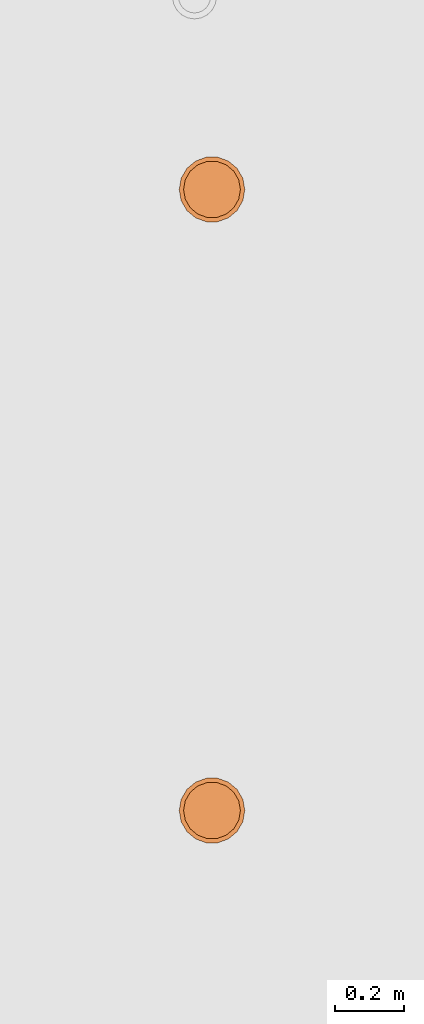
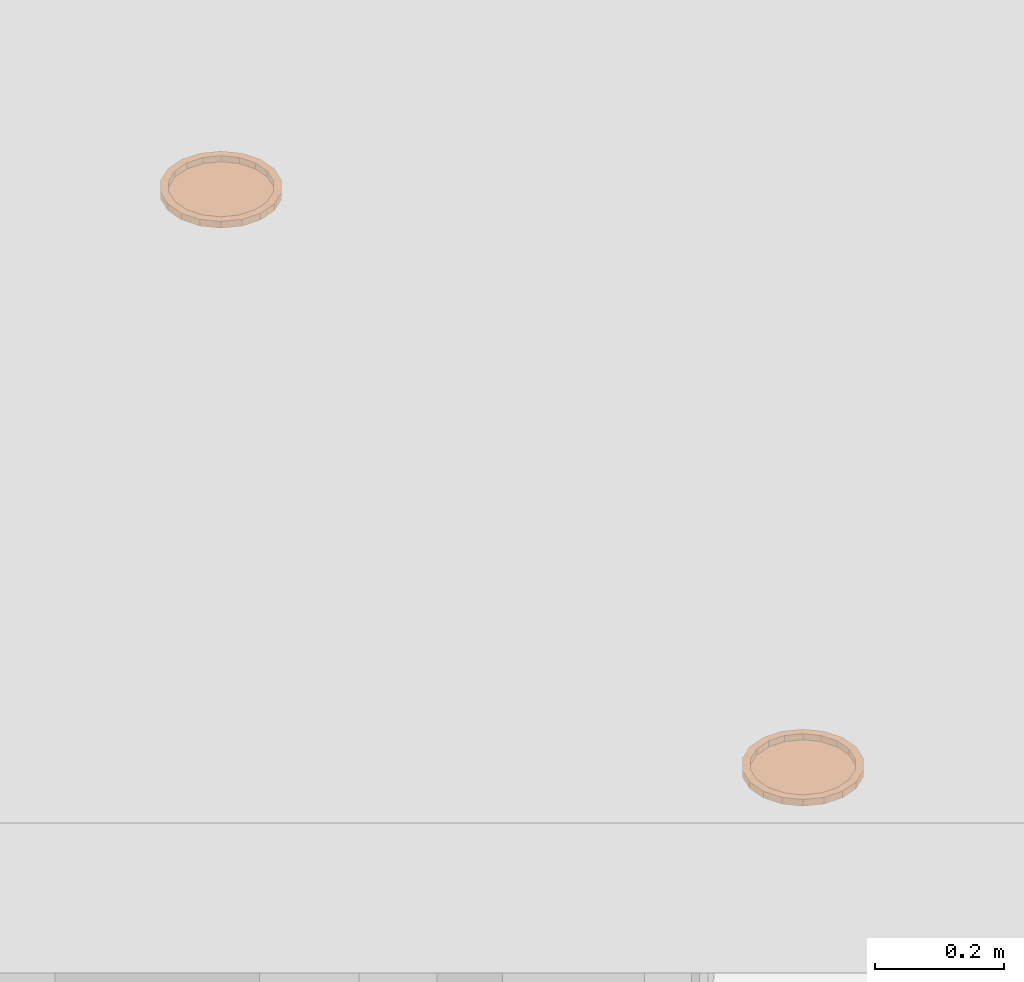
# One storey, part 70 of 103: 2 proxies.
"""IFC2X3 building model written with IfcOpenShell, lengths in inches."""

from ifc_helpers import new_model, entity, si_unit, converted_unit, derived_unit, money_unit, direction, frame, origin_with_axes, place, context, subcontext, project, spatial, open_shell, faceted_brep, surface_model, source, transform, mapped, type_object, element, save


model = new_model("IFC2X3")

# Units and contexts
model_context = context("Model", 3, precision=0.00039370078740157, world=origin_with_axes(), true_north=direction((0.0, 1.0)))
plan_context = context("Plan", 3, precision=0.00039370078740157, world=origin_with_axes(), true_north=direction((0.0, 1.0)))
body_context = subcontext(model_context, "Body", "Model", "MODEL_VIEW")
ifc_project = project(units=[converted_unit("LENGTHUNIT", "INCH", entity("IfcPositiveLengthMeasure", 0.0254), si_unit("LENGTHUNIT", "METRE"), dimensions=[1, 0, 0, 0, 0, 0, 0]), converted_unit("AREAUNIT", "SQUARE_FOOT", entity("IfcPositiveLengthMeasure", 0.09290304), si_unit("AREAUNIT", "SQUARE_METRE"), dimensions=[2, 0, 0, 0, 0, 0, 0]), si_unit("PLANEANGLEUNIT", "RADIAN"), si_unit("SOLIDANGLEUNIT", "STERADIAN"), money_unit("USD"), converted_unit("TIMEUNIT", "Year", entity("IfcTimeMeasure", 31557600.0), si_unit("TIMEUNIT", "SECOND"), dimensions=[0, 0, 1, 0, 0, 0, 0]), si_unit("MASSUNIT", "GRAM", prefix="KILO"), si_unit("THERMODYNAMICTEMPERATUREUNIT", "DEGREE_CELSIUS"), si_unit("LUMINOUSINTENSITYUNIT", "LUMEN"), si_unit("ENERGYUNIT", "JOULE", prefix="MEGA"), derived_unit("SPECIFICHEATCAPACITYUNIT", [(si_unit("ENERGYUNIT", "JOULE"), 1), (si_unit("MASSUNIT", "GRAM", prefix="KILO"), -1), (si_unit("THERMODYNAMICTEMPERATUREUNIT", "KELVIN"), -1)])], contexts=[model_context, plan_context])

# Site, building, storey
site_placement = place(None, origin_with_axes())
site = spatial("IfcSite", under=ifc_project, at=site_placement, Name="Site", CompositionType="ELEMENT")
building_placement = place(site_placement, origin_with_axes())
building = spatial("IfcBuilding", under=site, at=building_placement, Name="Building", CompositionType="ELEMENT")
storey_placement = place(building_placement, frame((0.0, 0.0, 127.9999999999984), z_axis=(0.0, 0.0, 1.0), x_axis=(1.0, 0.0, 0.0)))
storey = spatial("IfcBuildingStorey", under=building, at=storey_placement, Name="Second Floor", CompositionType="ELEMENT", Elevation=128.0)

# Proxies
building_element_proxy_type = type_object("IfcBuildingElementProxyType", Name="Recessed Spot", PredefinedType="NOTDEFINED")
shared_shape = source(origin_with_axes(), body_context, "Body", "SurfaceModel", [
    faceted_brep([(3.749999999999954, 0.0, -0.4999999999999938), (3.523847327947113, 1.282575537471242, -0.4999999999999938), (3.523847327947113, 1.282575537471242, 0.0), (3.749999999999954, 0.0, 0.0), (3.523847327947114, -1.282575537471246, -0.4999999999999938), (2.872666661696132, -2.410453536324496, -0.4999999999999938), (1.874999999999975, -3.247595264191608, -0.4999999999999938), (0.6511806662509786, -3.693029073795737, -0.4999999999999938), (-0.6511806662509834, -3.693029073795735, -0.4999999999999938), (-1.87499999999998, -3.247595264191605, -0.4999999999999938), (-2.872666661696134, -2.410453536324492, -0.4999999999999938), (-3.523847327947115, -1.282575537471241, -0.4999999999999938), (-3.749999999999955, 0.0, -0.4999999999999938), (-3.523847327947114, 1.282575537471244, -0.4999999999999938), (-2.872666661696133, 2.410453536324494, -0.4999999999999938), (-1.874999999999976, 3.247595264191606, -0.4999999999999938), (-0.6511806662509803, 3.693029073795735, -0.4999999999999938), (0.6511806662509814, 3.693029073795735, -0.4999999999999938), (1.874999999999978, 3.247595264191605, -0.4999999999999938), (2.872666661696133, 2.410453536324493, -0.4999999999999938), (3.24999999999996, 0.0, -0.4999999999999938), (3.054001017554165, 1.11156546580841, -0.4999999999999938), (2.489644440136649, 2.089059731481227, -0.4999999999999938), (1.62499999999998, 2.814582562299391, -0.4999999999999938), (0.5643565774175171, 3.200625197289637, -0.4999999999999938), (-0.5643565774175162, 3.200625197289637, -0.4999999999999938), (-1.62499999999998, 2.814582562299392, -0.4999999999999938), (-2.489644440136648, 2.089059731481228, -0.4999999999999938), (-3.054001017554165, 1.111565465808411, -0.4999999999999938), (-3.24999999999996, 0.0, -0.4999999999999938), (-3.054001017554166, -1.111565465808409, -0.4999999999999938), (-2.48964444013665, -2.089059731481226, -0.4999999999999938), (-1.624999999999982, -2.814582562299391, -0.4999999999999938), (-0.5643565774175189, -3.200625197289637, -0.4999999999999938), (0.5643565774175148, -3.200625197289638, -0.4999999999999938), (1.624999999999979, -2.814582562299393, -0.4999999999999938), (2.489644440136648, -2.08905973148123, -0.4999999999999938), (3.054001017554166, -1.111565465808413, -0.4999999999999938), (2.872666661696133, 2.410453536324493, 0.0), (1.874999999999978, 3.247595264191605, 0.0), (0.6511806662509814, 3.693029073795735, 0.0), (-0.6511806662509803, 3.693029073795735, 0.0), (-1.874999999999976, 3.247595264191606, 0.0), (-2.872666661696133, 2.410453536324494, 0.0), (-3.523847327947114, 1.282575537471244, 0.0), (-3.749999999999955, 0.0, 0.0), (-3.523847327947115, -1.282575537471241, 0.0), (-2.872666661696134, -2.410453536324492, 0.0), (-1.87499999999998, -3.247595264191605, 0.0), (-0.6511806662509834, -3.693029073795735, 0.0), (0.6511806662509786, -3.693029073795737, 0.0), (1.874999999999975, -3.247595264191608, 0.0), (2.872666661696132, -2.410453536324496, 0.0), (3.523847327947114, -1.282575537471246, 0.0), (3.24999999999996, 0.0, 0.0), (3.054001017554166, -1.111565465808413, 0.0), (2.489644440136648, -2.08905973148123, 0.0), (1.624999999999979, -2.814582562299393, 0.0), (0.5643565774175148, -3.200625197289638, 0.0), (-0.5643565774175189, -3.200625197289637, 0.0), (-1.624999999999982, -2.814582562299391, 0.0), (-2.48964444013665, -2.089059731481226, 0.0), (-3.054001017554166, -1.111565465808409, 0.0), (-3.24999999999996, 0.0, 0.0), (-3.054001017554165, 1.111565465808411, 0.0), (-2.489644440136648, 2.089059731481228, 0.0), (-1.62499999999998, 2.814582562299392, 0.0), (-0.5643565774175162, 3.200625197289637, 0.0), (0.5643565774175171, 3.200625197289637, 0.0), (1.62499999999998, 2.814582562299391, 0.0), (2.489644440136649, 2.089059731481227, 0.0), (3.054001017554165, 1.11156546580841, 0.0)], [[[0, 1, 2, 3]], [[0, 4, 5, 6, 7, 8, 9, 10, 11, 12, 13, 14, 15, 16, 17, 18, 19, 1], [20, 21, 22, 23, 24, 25, 26, 27, 28, 29, 30, 31, 32, 33, 34, 35, 36, 37]], [[1, 19, 38, 2]], [[3, 2, 38, 39, 40, 41, 42, 43, 44, 45, 46, 47, 48, 49, 50, 51, 52, 53], [54, 55, 56, 57, 58, 59, 60, 61, 62, 63, 64, 65, 66, 67, 68, 69, 70, 71]], [[4, 0, 3, 53]], [[5, 4, 53, 52]], [[6, 5, 52, 51]], [[7, 6, 51, 50]], [[8, 7, 50, 49]], [[9, 8, 49, 48]], [[10, 9, 48, 47]], [[11, 10, 47, 46]], [[12, 11, 46, 45]], [[13, 12, 45, 44]], [[14, 13, 44, 43]], [[15, 14, 43, 42]], [[16, 15, 42, 41]], [[17, 16, 41, 40]], [[18, 17, 40, 39]], [[19, 18, 39, 38]], [[21, 20, 54, 71]], [[22, 21, 71, 70]], [[23, 22, 70, 69]], [[24, 23, 69, 68]], [[25, 24, 68, 67]], [[26, 25, 67, 66]], [[27, 26, 66, 65]], [[28, 27, 65, 64]], [[29, 28, 64, 63]], [[30, 29, 63, 62]], [[31, 30, 62, 61]], [[32, 31, 61, 60]], [[33, 32, 60, 59]], [[34, 33, 59, 58]], [[35, 34, 58, 57]], [[36, 35, 57, 56]], [[37, 36, 56, 55]], [[20, 37, 55, 54]]]),
    surface_model("IfcShellBasedSurfaceModel", [(3.24999999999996, 0.0, -0.4460629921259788), (3.054001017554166, -1.111565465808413, -0.4460629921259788), (2.489644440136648, -2.08905973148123, -0.4460629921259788), (1.624999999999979, -2.814582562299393, -0.4460629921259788), (0.5643565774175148, -3.200625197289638, -0.4460629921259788), (-0.5643565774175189, -3.200625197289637, -0.4460629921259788), (-1.624999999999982, -2.814582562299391, -0.4460629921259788), (-2.48964444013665, -2.089059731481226, -0.4460629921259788), (-3.054001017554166, -1.111565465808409, -0.4460629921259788), (-3.24999999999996, 0.0, -0.4460629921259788), (-3.054001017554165, 1.111565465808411, -0.4460629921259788), (-2.489644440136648, 2.089059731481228, -0.4460629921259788), (-1.62499999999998, 2.814582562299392, -0.4460629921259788), (-0.5643565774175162, 3.200625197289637, -0.4460629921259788), (0.5643565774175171, 3.200625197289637, -0.4460629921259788), (1.62499999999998, 2.814582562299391, -0.4460629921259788), (2.489644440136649, 2.089059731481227, -0.4460629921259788), (3.054001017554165, 1.11156546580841, -0.4460629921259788)], [open_shell([[[0, 1, 2, 3, 4, 5, 6, 7, 8, 9, 10, 11, 12, 13, 14, 15, 16, 17]]])]),
])
for number, where, z_axis, x_axis, name in (
    (1, (-39.50035945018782, 312.500320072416, 118.4999999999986), (0.0, 0.0, 1.0), (0.9999999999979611, 2.01938114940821e-06, 0.0), "L-03"),
    (2, (-39.50021607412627, 241.5003200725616, 118.4999999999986), (0.0, 0.0, 1.0), (0.9999999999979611, 2.01938114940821e-06, 0.0), "L-03"),
):
    element("IfcBuildingElementProxy", number, at=place(storey_placement, frame(where, z_axis=z_axis, x_axis=x_axis)), inside=storey, type_object=building_element_proxy_type, Name=name, context=body_context, shape_type="MappedRepresentation", body=[
        mapped(shared_shape, transform((0.0, 0.0, 0.0))),
    ])

save(model, "model.ifc")
